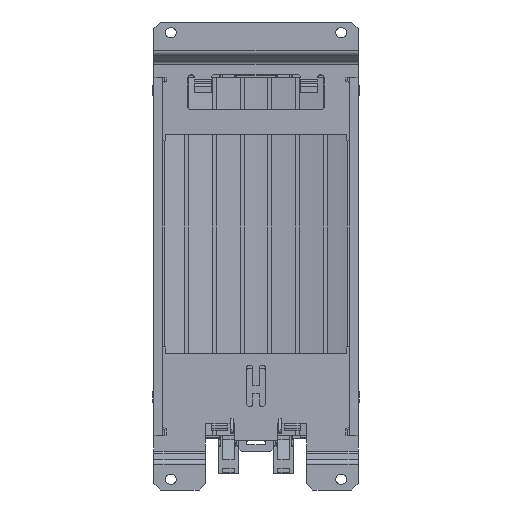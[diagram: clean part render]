
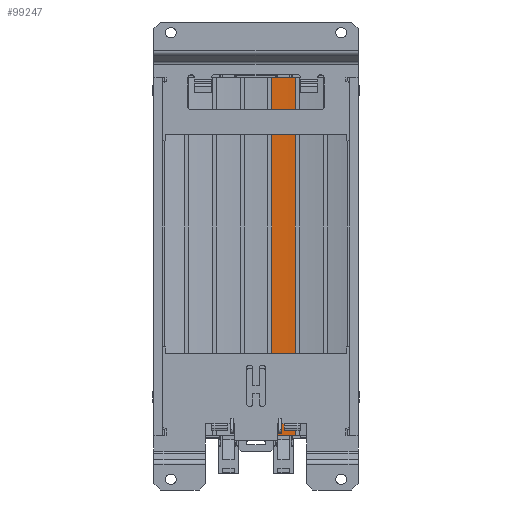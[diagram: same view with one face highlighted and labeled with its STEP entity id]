
A CAD part, front view. The second image highlights one B-rep face of the part: STEP entity #99247.
In plain terms, the highlighted cylindrical face has radius 170.84 mm (diameter 341.68 mm), a partial arc.
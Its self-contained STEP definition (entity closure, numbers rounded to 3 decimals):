
#11803=CARTESIAN_POINT('',(0.,-222.34,-84.));
#11804=DIRECTION('',(0.,0.,-1.));
#11805=DIRECTION('',(0.044,0.999,0.));
#11806=AXIS2_PLACEMENT_3D('',#11803,#11804,#11805);
#12797=CARTESIAN_POINT('',(0.,-222.34,84.));
#12798=DIRECTION('',(0.,0.,1.));
#12799=DIRECTION('',(0.108,0.994,0.));
#12800=AXIS2_PLACEMENT_3D('',#12797,#12798,#12799);
#14456=DIRECTION('',(0.,0.,1.));
#14457=VECTOR('',#14456,168.);
#14458=CARTESIAN_POINT('',(18.5,-52.505,-84.));
#14459=LINE('',#14458,#14457);
#14464=DIRECTION('',(0.,0.,1.));
#14465=VECTOR('',#14464,168.);
#14466=CARTESIAN_POINT('',(7.5,-51.665,-84.));
#14467=LINE('',#14466,#14465);
#59808=CARTESIAN_POINT('',(7.5,-51.665,-84.));
#59809=CARTESIAN_POINT('',(18.5,-52.505,-84.));
#59810=VERTEX_POINT('',#59808);
#59811=VERTEX_POINT('',#59809);
#59990=CARTESIAN_POINT('',(18.5,-52.505,84.));
#59992=VERTEX_POINT('',#59990);
#59994=CARTESIAN_POINT('',(7.5,-51.665,84.));
#59995=VERTEX_POINT('',#59994);
#99235=CARTESIAN_POINT('',(0.,-222.34,87.36));
#99236=DIRECTION('',(0.,0.,-1.));
#99237=DIRECTION('',(-1.,0.,0.));
#99238=AXIS2_PLACEMENT_3D('',#99235,#99236,#99237);
#99239=CYLINDRICAL_SURFACE('',#99238,170.84);
#99240=ORIENTED_EDGE('',*,*,#95828,.F.);
#99242=ORIENTED_EDGE('',*,*,#99241,.T.);
#99243=ORIENTED_EDGE('',*,*,#96800,.F.);
#99244=ORIENTED_EDGE('',*,*,#99228,.F.);
#99245=EDGE_LOOP('',(#99240,#99242,#99243,#99244));
#99246=FACE_OUTER_BOUND('',#99245,.F.);
#11807=CIRCLE('',#11806,170.84);
#12801=CIRCLE('',#12800,170.84);
#95828=EDGE_CURVE('',#59810,#59811,#11807,.T.);
#96800=EDGE_CURVE('',#59992,#59995,#12801,.T.);
#99228=EDGE_CURVE('',#59811,#59992,#14459,.T.);
#99241=EDGE_CURVE('',#59810,#59995,#14467,.T.);
#99247=ADVANCED_FACE('',(#99246),#99239,.F.);
